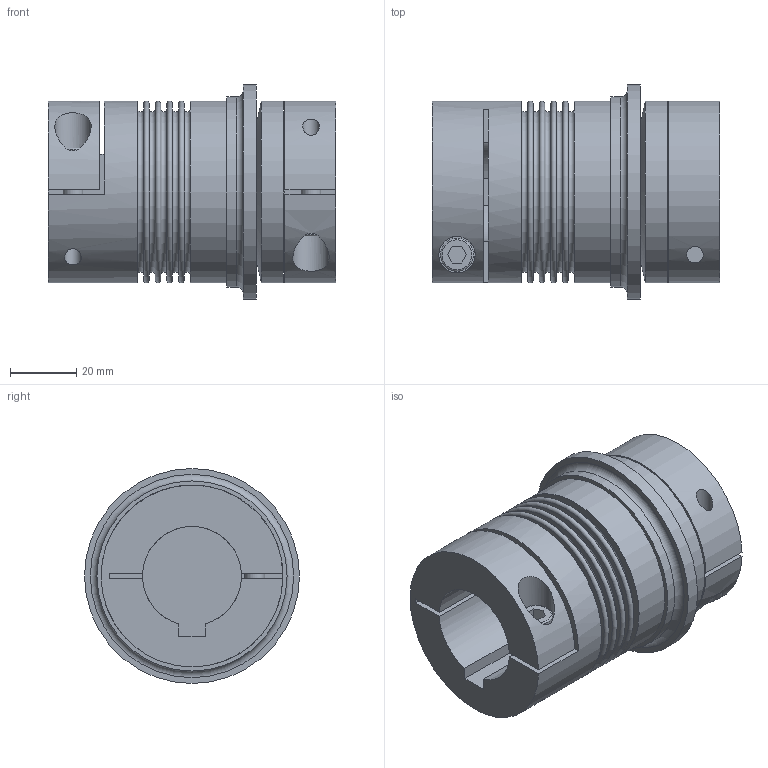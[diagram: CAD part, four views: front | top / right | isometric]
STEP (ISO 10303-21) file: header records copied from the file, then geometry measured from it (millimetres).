
FILE_DESCRIPTION(/* description */ ('STEP AP214'),/* implementation_level */ '2;1');
FILE_NAME(/* name */ 'C:\Diequa Files\DieQua Coupling\TB2\STP\TB2.30.87.WDG.#.#.stp',/* time_stamp */ '2019-04-26T10:42:32-05:00',/* author */ ('DiequaCAD'),/* organization */ (''),/* preprocessor_version */ 'ST-DEVELOPER v18',/* originating_system */ 'Autodesk Inventor 2020',/* authorisation */ ' ');
FILE_SCHEMA (('AUTOMOTIVE_DESIGN { 1 0 10303 214 3 1 1 }'));
Length unit declared in the file: millimetre
Products named in the file (1): TB2.30.87.WDG.#.#
Bounding box: 87 x 65 x 65 mm (x, y, z)
Volume: 161832.3 mm3; surface area: 39423.5 mm2
Topology: 1 solids, 1 shells, 90 faces, 212 edges, 148 vertices
Faces by surface type: plane 57, cylinder 20, torus 12, cone 1
Full cylindrical faces by diameter (mm): 5 x2, 6 x2, 6.6 x2, 10 x2, 11 x2, 41.5 x1, 55 x3, 57.5 x1, 65 x1
Entity records: 2857 total; most frequent: CARTESIAN_POINT 603, DIRECTION 491, ORIENTED_EDGE 424, EDGE_CURVE 212, AXIS2_PLACEMENT_3D 194, VERTEX_POINT 148, EDGE_LOOP 118, LINE 103
